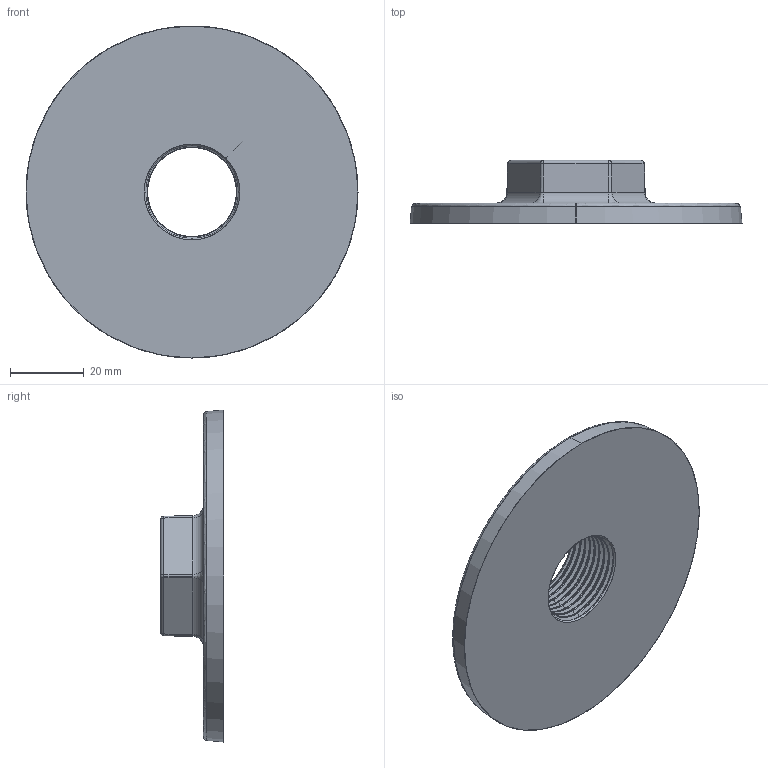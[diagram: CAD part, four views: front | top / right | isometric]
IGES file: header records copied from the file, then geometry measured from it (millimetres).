
Start section: SolidWorks IGES file using analytic representation for surfaces
Global section: file name: C:\Users\Joel Rosa\Desktop\Tubulação\12-99-OK\12-99-006.IGS; native system: SolidWorks 2011; preprocessor: SolidWorks 2011; author: Joel Rosa; date: 131021.201230; units: millimetre
Bounding box: 90 x 17.2 x 90 mm (x, y, z)
Surface area: 16384.6 mm2 (no closed solid volume)
Topology: 0 solids, 0 shells, 259 faces, 2200 edges, 2200 vertices
Faces by surface type: bspline 190, revolution 69
